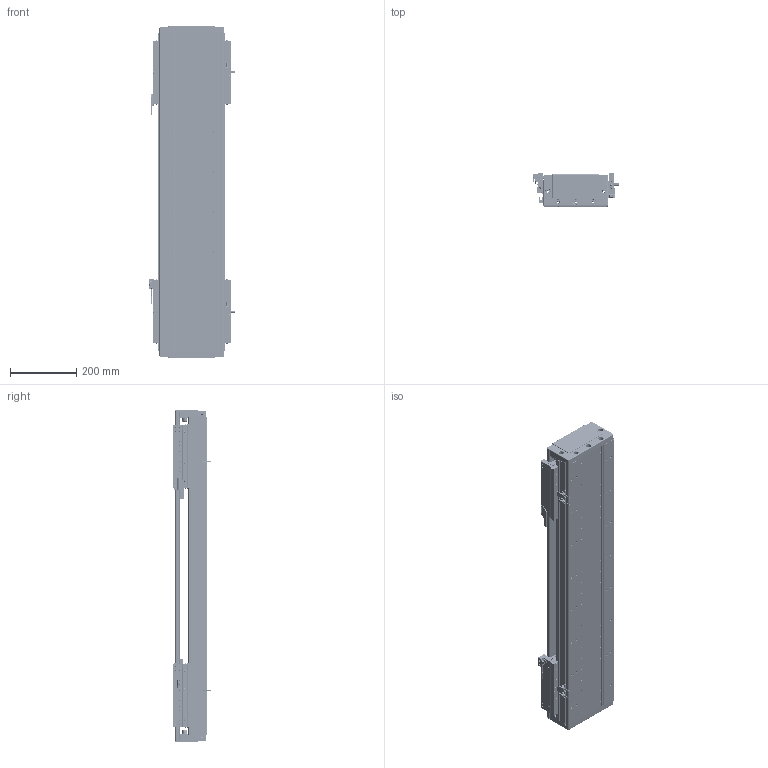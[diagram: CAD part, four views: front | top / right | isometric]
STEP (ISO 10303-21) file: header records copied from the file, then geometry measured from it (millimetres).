
FILE_DESCRIPTION (( 'STEP AP203' ), '1' );
FILE_NAME ('DA-C195-2-C2-T500-C010-0.2 眻盄萇儂.STEP', '2025-08-14T01:48:10', ( '' ), ( '' ), 'SwSTEP 2.0', 'SolidWorks 2019', '' );
FILE_SCHEMA (( 'CONFIG_CONTROL_DESIGN' ));
Length unit declared in the file: millimetre
Products named in the file (16): DKW-GYP-ZJ-00 笢潔嫖萇覜茼え; DKW168-HXJ-ZJ-00 笢潔滅袉砎蝶; IU-CU195-L 菁釱絳寢; MS200 棠掑喜S315-T240; LMT黍杅芛; CU195-C2賑輸-俋楷; IU-CU195-L-00 菁釱(L960); DA-C195-2-C2-T500-C010-0.2 眻盄萇儂; DKW-KGZ-ZJ-00 中间光电开关支架; DA95-HXJ-00 遣喳砎蝶; DA195-DG-H-00  端盖（压铸镂空版）; 葩璃 DA95-GT-T-00; 66156-0001-003-00 裔啣; 66156-0001-005-00 光电感应片(默认); PM-T45ㄗ侂狟ㄘ; PM-Y65嫖萇羲壽郪璃
Assembly tree (28 placements, depth 3):
  DA-C195-2-C2-T500-C010-0.2 眻盄萇儂
    IU-CU195-L 菁釱絳寢
      IU-CU195-L-00 菁釱(L960)
      葩璃 DA95-GT-T-00  x4
    LMT黍杅芛  x2
    MS200 棠掑喜S315-T240
    PM-T45ㄗ侂狟ㄘ  x4
    66156-0001-005-00 光电感应片(默认)  x2
    DA195-DG-H-00  端盖（压铸镂空版）  x2
    DA95-HXJ-00 遣喳砎蝶  x4
    PM-Y65嫖萇羲壽郪璃
    66156-0001-003-00 裔啣
    DKW168-HXJ-ZJ-00 笢潔滅袉砎蝶
    DKW-GYP-ZJ-00 笢潔嫖萇覜茼え
    DKW-KGZ-ZJ-00 中间光电开关支架
    CU195-C2賑輸-俋楷  x2
Bounding box: 258.2 x 115.6 x 1000 mm (x, y, z)
Volume: 8466989.7 mm3; surface area: 2335021.3 mm2
Topology: 106 solids, 242 shells, 7786 faces, 19416 edges, 11779 vertices
Faces by surface type: cylinder 3114, plane 2856, cone 946, bspline 718, torus 80, sphere 72
Entity records: 151143 total; most frequent: CARTESIAN_POINT 45704, ORIENTED_EDGE 21834, DIRECTION 21042, EDGE_CURVE 10917, AXIS2_PLACEMENT_3D 7667, VERTEX_POINT 6894, VECTOR 5708, LINE 5708
